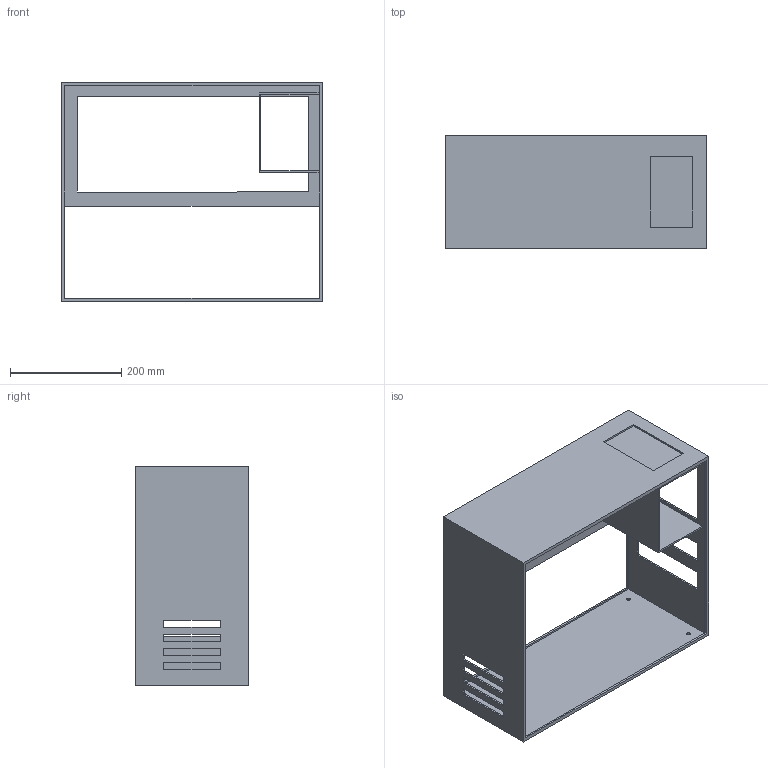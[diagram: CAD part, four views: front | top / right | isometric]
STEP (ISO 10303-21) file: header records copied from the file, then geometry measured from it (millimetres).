
FILE_DESCRIPTION((''),'2;1');
FILE_NAME('D:\AutoSim 2013 Tutorials\Ranger Scrub\Computer Case2.stp','2012-03-07T11:41:52',('stefanj'),(''),'Autodesk Inventor 2012','Autodesk Inventor 2012','');
FILE_SCHEMA(('AUTOMOTIVE_DESIGN { 1 0 10303 214 1 1 1 1 }'));
Length unit declared in the file: inch
Products named in the file (1): Computer Case
Bounding box: 469.9 x 203.2 x 393.7 mm (x, y, z)
Volume: 1284859.3 mm3; surface area: 831613.3 mm2
Topology: 1 solids, 1 shells, 68 faces, 192 edges, 128 vertices
Faces by surface type: plane 64, cylinder 4
Full cylindrical faces by diameter (mm): 6.35 x4
Entity records: 2307 total; most frequent: CARTESIAN_POINT 385, ORIENTED_EDGE 376, DIRECTION 334, EDGE_CURVE 188, VECTOR 180, LINE 180, VERTEX_POINT 128, EDGE_LOOP 104
